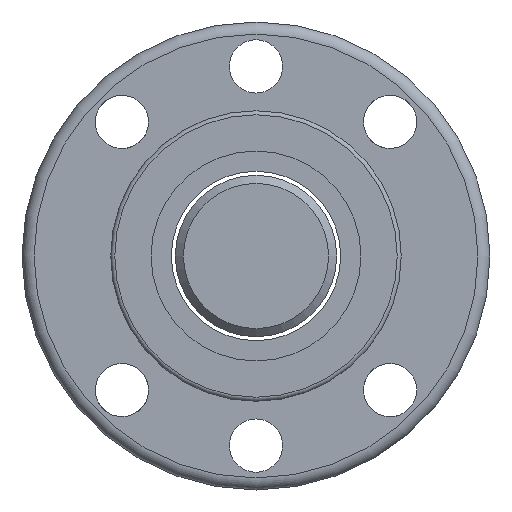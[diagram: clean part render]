
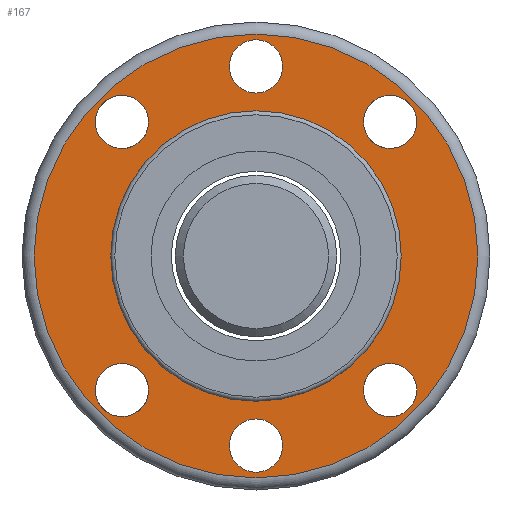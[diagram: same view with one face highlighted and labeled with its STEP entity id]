
A CAD part, left-side view. The second image highlights one B-rep face of the part: STEP entity #167.
In plain terms, the highlighted planar face has unit normal (-1, 0, 0).
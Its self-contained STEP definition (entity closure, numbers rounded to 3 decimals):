
#123=PLANE('',#689);
#138=FACE_OUTER_BOUND('',#344,.T.);
#167=ADVANCED_FACE('',(#249,#250,#251,#252,#253,#254,#255,#138),#123,.T.);
#249=FACE_BOUND('',#337,.T.);
#250=FACE_BOUND('',#338,.T.);
#251=FACE_BOUND('',#339,.T.);
#252=FACE_BOUND('',#340,.T.);
#253=FACE_BOUND('',#341,.T.);
#254=FACE_BOUND('',#342,.T.);
#255=FACE_BOUND('',#343,.T.);
#337=EDGE_LOOP('',(#435));
#338=EDGE_LOOP('',(#436));
#339=EDGE_LOOP('',(#437));
#340=EDGE_LOOP('',(#438));
#341=EDGE_LOOP('',(#439));
#342=EDGE_LOOP('',(#440));
#343=EDGE_LOOP('',(#441));
#344=EDGE_LOOP('',(#442));
#435=ORIENTED_EDGE('',*,*,#564,.F.);
#436=ORIENTED_EDGE('',*,*,#565,.F.);
#437=ORIENTED_EDGE('',*,*,#566,.F.);
#438=ORIENTED_EDGE('',*,*,#567,.F.);
#439=ORIENTED_EDGE('',*,*,#568,.F.);
#440=ORIENTED_EDGE('',*,*,#569,.F.);
#441=ORIENTED_EDGE('',*,*,#570,.T.);
#442=ORIENTED_EDGE('',*,*,#563,.F.);
#514=VERTEX_POINT('',#988);
#515=VERTEX_POINT('',#991);
#516=VERTEX_POINT('',#993);
#517=VERTEX_POINT('',#995);
#518=VERTEX_POINT('',#997);
#519=VERTEX_POINT('',#999);
#520=VERTEX_POINT('',#1001);
#521=VERTEX_POINT('',#1003);
#563=EDGE_CURVE('',#514,#514,#612,.T.);
#564=EDGE_CURVE('',#515,#515,#613,.T.);
#565=EDGE_CURVE('',#516,#516,#614,.T.);
#566=EDGE_CURVE('',#517,#517,#615,.T.);
#567=EDGE_CURVE('',#518,#518,#616,.T.);
#568=EDGE_CURVE('',#519,#519,#617,.T.);
#569=EDGE_CURVE('',#520,#520,#618,.T.);
#570=EDGE_CURVE('',#521,#521,#619,.T.);
#612=CIRCLE('',#680,27.5);
#613=CIRCLE('',#682,3.3);
#614=CIRCLE('',#683,3.3);
#615=CIRCLE('',#684,3.3);
#616=CIRCLE('',#685,3.3);
#617=CIRCLE('',#686,3.3);
#618=CIRCLE('',#687,3.3);
#619=CIRCLE('',#688,18.);
#680=AXIS2_PLACEMENT_3D('',#987,#818,#819);
#682=AXIS2_PLACEMENT_3D('',#990,#822,#823);
#683=AXIS2_PLACEMENT_3D('',#992,#824,#825);
#684=AXIS2_PLACEMENT_3D('',#994,#826,#827);
#685=AXIS2_PLACEMENT_3D('',#996,#828,#829);
#686=AXIS2_PLACEMENT_3D('',#998,#830,#831);
#687=AXIS2_PLACEMENT_3D('',#1000,#832,#833);
#688=AXIS2_PLACEMENT_3D('',#1002,#834,#835);
#689=AXIS2_PLACEMENT_3D('',#1004,#836,#837);
#818=DIRECTION('',(1.,0.,0.));
#819=DIRECTION('',(0.,1.,0.));
#822=DIRECTION('',(-1.,0.,0.));
#823=DIRECTION('',(0.,-1.,0.));
#824=DIRECTION('',(-1.,0.,0.));
#825=DIRECTION('',(0.,-1.,0.));
#826=DIRECTION('',(-1.,0.,0.));
#827=DIRECTION('',(0.,-1.,0.));
#828=DIRECTION('',(-1.,0.,0.));
#829=DIRECTION('',(0.,-1.,0.));
#830=DIRECTION('',(-1.,0.,0.));
#831=DIRECTION('',(0.,-1.,0.));
#832=DIRECTION('',(-1.,0.,0.));
#833=DIRECTION('',(0.,-1.,0.));
#834=DIRECTION('',(1.,0.,0.));
#835=DIRECTION('',(0.,1.,0.));
#836=DIRECTION('',(-1.,0.,0.));
#837=DIRECTION('',(0.,-1.,0.));
#987=CARTESIAN_POINT('',(-25.,0.,0.));
#988=CARTESIAN_POINT('',(-25.,27.5,0.));
#990=CARTESIAN_POINT('',(-25.,16.617,16.617));
#991=CARTESIAN_POINT('',(-25.,13.317,16.617));
#992=CARTESIAN_POINT('',(-25.,16.617,-16.617));
#993=CARTESIAN_POINT('',(-25.,13.317,-16.617));
#994=CARTESIAN_POINT('',(-25.,0.,-23.5));
#995=CARTESIAN_POINT('',(-25.,-3.3,-23.5));
#996=CARTESIAN_POINT('',(-25.,-16.617,-16.617));
#997=CARTESIAN_POINT('',(-25.,-19.917,-16.617));
#998=CARTESIAN_POINT('',(-25.,-16.617,16.617));
#999=CARTESIAN_POINT('',(-25.,-19.917,16.617));
#1000=CARTESIAN_POINT('',(-25.,0.,23.5));
#1001=CARTESIAN_POINT('',(-25.,-3.3,23.5));
#1002=CARTESIAN_POINT('',(-25.,0.,0.));
#1003=CARTESIAN_POINT('',(-25.,18.,0.));
#1004=CARTESIAN_POINT('',(-25.,22.75,0.));
